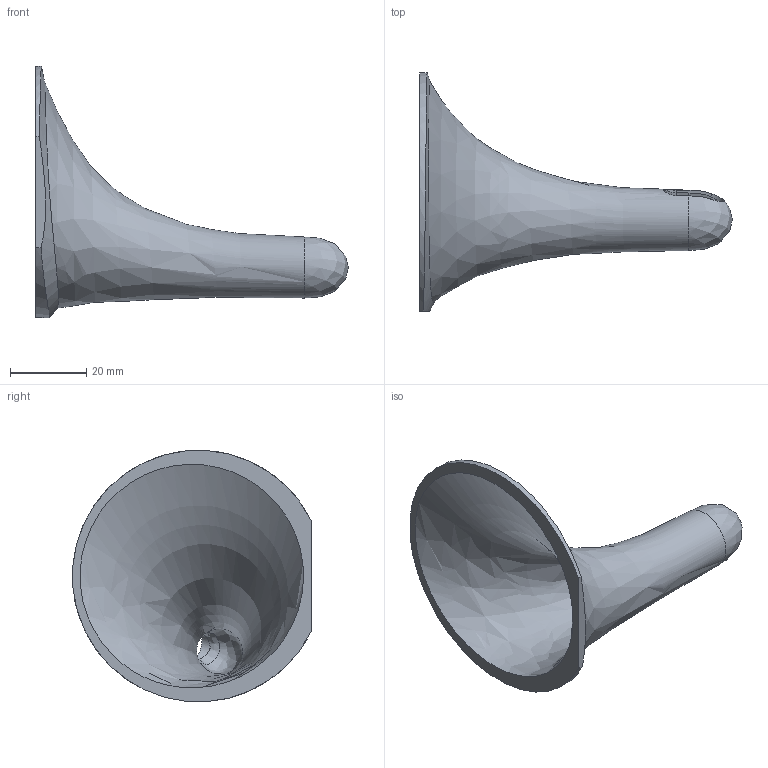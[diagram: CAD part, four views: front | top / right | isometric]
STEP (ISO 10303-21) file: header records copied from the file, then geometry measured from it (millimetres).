
FILE_DESCRIPTION (( 'STEP AP214' ), '1' );
FILE_NAME ('Horn - Right.STEP', '2015-03-13T18:50:12', ( '' ), ( '' ), 'SwSTEP 2.0', 'SolidWorks 2015', '' );
FILE_SCHEMA (( 'AUTOMOTIVE_DESIGN' ));
Length unit declared in the file: millimetre
Products named in the file (1): Horn - Right
Bounding box: 82 x 62.52 x 65.94 mm (x, y, z)
Volume: 14890 mm3; surface area: 15008.7 mm2
Topology: 1 solids, 1 shells, 18 faces, 50 edges, 33 vertices
Faces by surface type: bspline 11, plane 4, cylinder 3
Entity records: 8518 total; most frequent: CARTESIAN_POINT 8170, ORIENTED_EDGE 84, EDGE_CURVE 42, B_SPLINE_CURVE_WITH_KNOTS 29, VERTEX_POINT 28, DIRECTION 27, EDGE_LOOP 22, FACE_OUTER_BOUND 21
